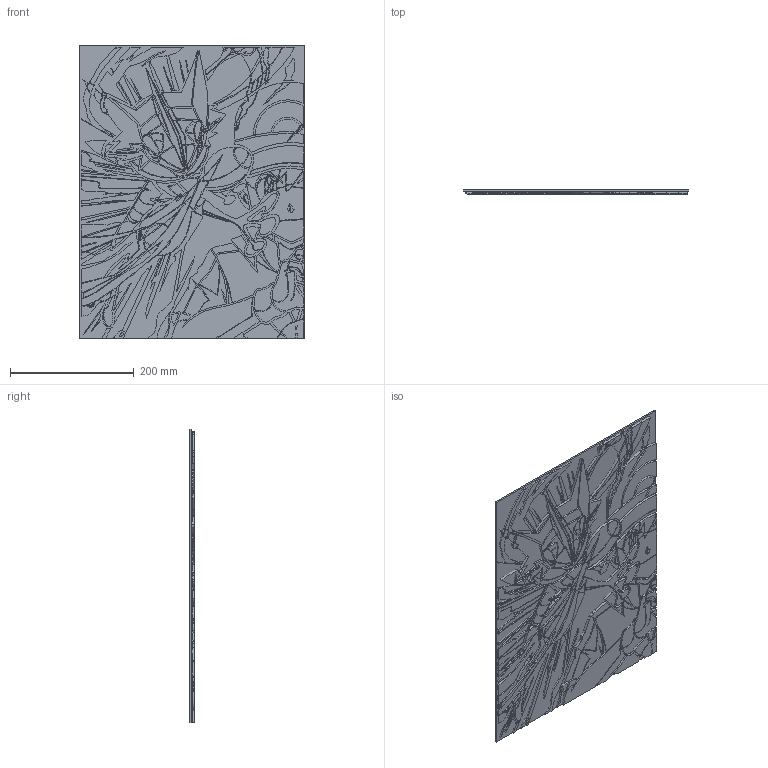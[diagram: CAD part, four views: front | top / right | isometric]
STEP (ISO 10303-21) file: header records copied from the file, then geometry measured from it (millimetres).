
FILE_DESCRIPTION(('HOOPS Exchange Step'),'2;1');
FILE_NAME('/Users/snehkahodariya/Library/Containers/com.shapr3d.shapr/Data/tmp/export/temp_export','2026-10-03T16:32:23+10:00',('snehkahodariya'),('Shapr3D Limited'),'HOOPS Exchange 2026.3','Shapr3D','Authorized');
FILE_SCHEMA( ('AP242_MANAGED_MODEL_BASED_3D_ENGINEERING_MIM_LF {1 0 10303 442 1 1 4}') );
Length unit declared in the file: millimetre
Products named in the file (2): Folder 319; root
Assembly tree (1 placements, depth 2):
  root
    Folder 319
Bounding box: 364 x 6.9 x 474 mm (x, y, z)
Volume: 996965.2 mm3; surface area: 693202 mm2
Topology: 230 solids, 230 shells, 2639 faces, 6537 edges, 4358 vertices
Faces by surface type: plane 1428, bspline 1211
Entity records: 87891 total; most frequent: CARTESIAN_POINT 33354, ORIENTED_EDGE 13074, DIRECTION 6958, EDGE_CURVE 6537, VERTEX_POINT 4358, VECTOR 4094, LINE 4094, EDGE_LOOP 2651
